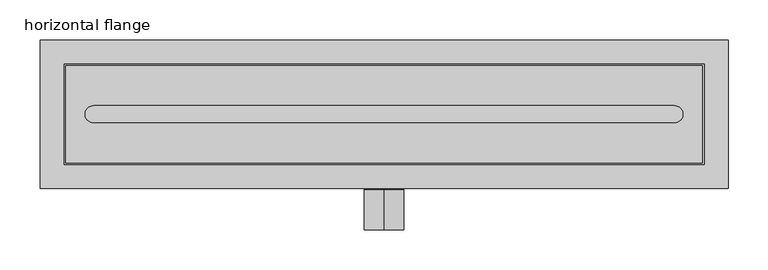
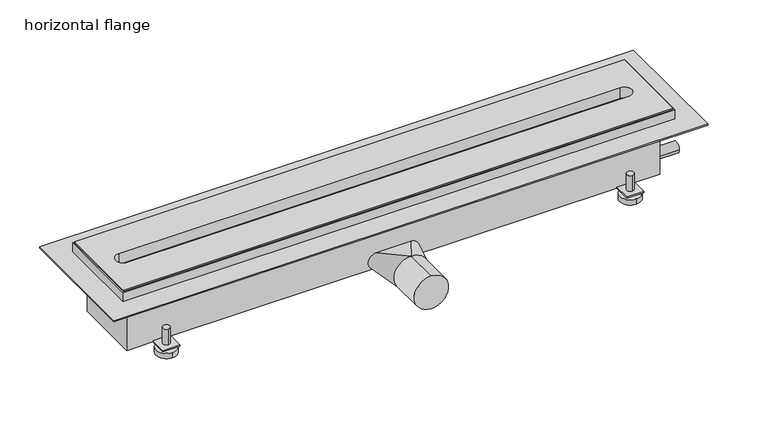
"""IFC4 building model written with IfcOpenShell, lengths in millimetres: sanitary terminal geometry, PF_ST_UN_ShowerDrain X_ACO : horizontal flange."""

from ifc_helpers import new_model, si_unit, point, frame, frame_2d, origin, origin_with_axes, place, context, project, spatial, polyline, circle_curve, trimmed, segment, composite_curve, outline, extrude, faceted_brep, source, transform, mapped, element, save
from ifc_brep_helpers import plane_surface, cylinder_surface, spline_surface, advanced_brep


def horizontal_flange_90231a54(model_context):
    return source(origin(), model_context, "Body", "SolidModel", [
        advanced_brep(
        [(-336.0, 67.0, -60.0), (-336.0, 57.0, -60.0), (-336.0, 77.0, -98.0), (-336.0, 47.0, -98.0), (-336.0, 67.0, -90.0), (-336.0, 57.0, -90.0), (-336.0, 77.0, -90.0), (-336.0, 47.0, -90.0)],
        [
            (0, 1, circle_curve(frame((-336.0, 62.0, -60.0), z_axis=(0.0, 0.0, 1.0), x_axis=(0.0, -1.0, 0.0)), 5.0)),
            (1, 0, circle_curve(frame((-336.0, 62.0, -60.0), z_axis=(0.0, 0.0, 1.0), x_axis=(0.0, -1.0, 0.0)), 5.0)),
            (2, 3, circle_curve(frame((-336.0, 62.0, -98.0), z_axis=(0.0, 0.0, -1.0), x_axis=(0.0, -1.0, 0.0)), 15.0)),
            (3, 2, circle_curve(frame((-336.0, 62.0, -98.0), z_axis=(0.0, 0.0, -1.0), x_axis=(0.0, -1.0, 0.0)), 15.0)),
            (0, 4),
            (4, 5, circle_curve(frame((-336.0, 62.0, -90.0), z_axis=(0.0, 0.0, 1.0), x_axis=(0.0, -1.0, 0.0)), 5.0)),
            (5, 1),
            (5, 4, circle_curve(frame((-336.0, 62.0, -90.0), z_axis=(0.0, 0.0, 1.0), x_axis=(0.0, -1.0, 0.0)), 5.0)),
            (6, 7, circle_curve(frame((-336.0, 62.0, -90.0), z_axis=(0.0, 0.0, 1.0), x_axis=(0.0, -1.0, 0.0)), 15.0)),
            (7, 6, circle_curve(frame((-336.0, 62.0, -90.0), z_axis=(0.0, 0.0, 1.0), x_axis=(0.0, -1.0, 0.0)), 15.0)),
            (6, 2),
            (3, 7),
        ],
        [
            plane_surface(frame((-336.0, 57.0, -60.0), z_axis=(0.0, 0.0, 1.0), x_axis=(1.0, 0.0, 0.0))),
            plane_surface(frame((-336.0, 57.0, -98.0), z_axis=(0.0, 0.0, -1.0), x_axis=(-1.0, 0.0, 0.0))),
            cylinder_surface(frame((-336.0, 62.0, -98.0), z_axis=(0.0, 0.0, 1.0), x_axis=(0.0, -1.0, 0.0)), 5.0),
            plane_surface(frame((-336.0, 47.0, -90.0), z_axis=(0.0, 0.0, 1.0), x_axis=(1.0, 0.0, 0.0))),
            cylinder_surface(frame((-336.0, 62.0, -98.0), z_axis=(0.0, 0.0, 1.0), x_axis=(0.0, -1.0, 0.0)), 15.0),
        ],
        [
            (0, [[1, 2]]),
            (1, [[3, 4]]),
            (2, [[-1, 5, 6, 7]]),
            (2, [[-2, -7, 8, -5]]),
            (3, [[9, 10], [-6, -8]]),
            (4, [[-9, 11, -4, 12]]),
            (4, [[-10, -12, -3, -11]]),
        ],
    ),
        advanced_brep(
        [(-336.0, -56.5, -60.0), (-336.0, -66.5, -60.0), (-336.0, -46.5, -98.0), (-336.0, -76.5, -98.0), (-336.0, -56.5, -90.0), (-336.0, -66.5, -90.0), (-336.0, -46.5, -90.0), (-336.0, -76.5, -90.0)],
        [
            (0, 1, circle_curve(frame((-336.0, -61.5, -60.0), z_axis=(0.0, 0.0, 1.0), x_axis=(0.0, -1.0, 0.0)), 5.0)),
            (1, 0, circle_curve(frame((-336.0, -61.5, -60.0), z_axis=(0.0, 0.0, 1.0), x_axis=(0.0, -1.0, 0.0)), 5.0)),
            (2, 3, circle_curve(frame((-336.0, -61.5, -98.0), z_axis=(0.0, 0.0, -1.0), x_axis=(0.0, -1.0, 0.0)), 15.0)),
            (3, 2, circle_curve(frame((-336.0, -61.5, -98.0), z_axis=(0.0, 0.0, -1.0), x_axis=(0.0, -1.0, 0.0)), 15.0)),
            (0, 4),
            (4, 5, circle_curve(frame((-336.0, -61.5, -90.0), z_axis=(0.0, 0.0, 1.0), x_axis=(0.0, -1.0, 0.0)), 5.0)),
            (5, 1),
            (5, 4, circle_curve(frame((-336.0, -61.5, -90.0), z_axis=(0.0, 0.0, 1.0), x_axis=(0.0, -1.0, 0.0)), 5.0)),
            (6, 7, circle_curve(frame((-336.0, -61.5, -90.0), z_axis=(0.0, 0.0, 1.0), x_axis=(0.0, -1.0, 0.0)), 15.0)),
            (7, 6, circle_curve(frame((-336.0, -61.5, -90.0), z_axis=(0.0, 0.0, 1.0), x_axis=(0.0, -1.0, 0.0)), 15.0)),
            (6, 2),
            (3, 7),
        ],
        [
            plane_surface(frame((-336.0, 57.0, -60.0), z_axis=(0.0, 0.0, 1.0), x_axis=(1.0, 0.0, 0.0))),
            plane_surface(frame((-336.0, 57.0, -98.0), z_axis=(0.0, 0.0, -1.0), x_axis=(-1.0, 0.0, 0.0))),
            cylinder_surface(frame((-336.0, -61.5, -98.0), z_axis=(0.0, 0.0, 1.0), x_axis=(0.0, -1.0, 0.0)), 5.0),
            plane_surface(frame((-336.0, 47.0, -90.0), z_axis=(0.0, 0.0, 1.0), x_axis=(1.0, 0.0, 0.0))),
            cylinder_surface(frame((-336.0, -61.5, -98.0), z_axis=(0.0, 0.0, 1.0), x_axis=(0.0, -1.0, 0.0)), 15.0),
        ],
        [
            (0, [[1, 2]]),
            (1, [[3, 4]]),
            (2, [[-1, 5, 6, 7]]),
            (2, [[-2, -7, 8, -5]]),
            (3, [[9, 10], [-6, -8]]),
            (4, [[-9, 11, -4, 12]]),
            (4, [[-10, -12, -3, -11]]),
        ],
    ),
        advanced_brep(
        [(336.0, 67.0, -60.0), (336.0, 57.0, -60.0), (336.0, 77.0, -98.0), (336.0, 47.0, -98.0), (336.0, 67.0, -90.0), (336.0, 57.0, -90.0), (336.0, 77.0, -90.0), (336.0, 47.0, -90.0)],
        [
            (0, 1, circle_curve(frame((336.0, 62.0, -60.0), z_axis=(0.0, 0.0, 1.0), x_axis=(0.0, -1.0, 0.0)), 5.0)),
            (1, 0, circle_curve(frame((336.0, 62.0, -60.0), z_axis=(0.0, 0.0, 1.0), x_axis=(0.0, -1.0, 0.0)), 5.0)),
            (2, 3, circle_curve(frame((336.0, 62.0, -98.0), z_axis=(0.0, 0.0, -1.0), x_axis=(0.0, -1.0, 0.0)), 15.0)),
            (3, 2, circle_curve(frame((336.0, 62.0, -98.0), z_axis=(0.0, 0.0, -1.0), x_axis=(0.0, -1.0, 0.0)), 15.0)),
            (0, 4),
            (4, 5, circle_curve(frame((336.0, 62.0, -90.0), z_axis=(0.0, 0.0, 1.0), x_axis=(0.0, -1.0, 0.0)), 5.0)),
            (5, 1),
            (5, 4, circle_curve(frame((336.0, 62.0, -90.0), z_axis=(0.0, 0.0, 1.0), x_axis=(0.0, -1.0, 0.0)), 5.0)),
            (6, 7, circle_curve(frame((336.0, 62.0, -90.0), z_axis=(0.0, 0.0, 1.0), x_axis=(0.0, -1.0, 0.0)), 15.0)),
            (7, 6, circle_curve(frame((336.0, 62.0, -90.0), z_axis=(0.0, 0.0, 1.0), x_axis=(0.0, -1.0, 0.0)), 15.0)),
            (6, 2),
            (3, 7),
        ],
        [
            plane_surface(frame((-336.0, 57.0, -60.0), z_axis=(0.0, 0.0, 1.0), x_axis=(1.0, 0.0, 0.0))),
            plane_surface(frame((-336.0, 57.0, -98.0), z_axis=(0.0, 0.0, -1.0), x_axis=(-1.0, 0.0, 0.0))),
            cylinder_surface(frame((336.0, 62.0, -98.0), z_axis=(0.0, 0.0, 1.0), x_axis=(0.0, -1.0, 0.0)), 5.0),
            plane_surface(frame((-336.0, 47.0, -90.0), z_axis=(0.0, 0.0, 1.0), x_axis=(1.0, 0.0, 0.0))),
            cylinder_surface(frame((336.0, 62.0, -98.0), z_axis=(0.0, 0.0, 1.0), x_axis=(0.0, -1.0, 0.0)), 15.0),
        ],
        [
            (0, [[1, 2]]),
            (1, [[3, 4]]),
            (2, [[-1, 5, 6, 7]]),
            (2, [[-2, -7, 8, -5]]),
            (3, [[9, 10], [-6, -8]]),
            (4, [[-9, 11, -4, 12]]),
            (4, [[-10, -12, -3, -11]]),
        ],
    ),
        advanced_brep(
        [(336.0, -56.5, -60.0), (336.0, -66.5, -60.0), (336.0, -46.5, -98.0), (336.0, -76.5, -98.0), (336.0, -56.5, -90.0), (336.0, -66.5, -90.0), (336.0, -46.5, -90.0), (336.0, -76.5, -90.0)],
        [
            (0, 1, circle_curve(frame((336.0, -61.5, -60.0), z_axis=(0.0, 0.0, 1.0), x_axis=(0.0, -1.0, 0.0)), 5.0)),
            (1, 0, circle_curve(frame((336.0, -61.5, -60.0), z_axis=(0.0, 0.0, 1.0), x_axis=(0.0, -1.0, 0.0)), 5.0)),
            (2, 3, circle_curve(frame((336.0, -61.5, -98.0), z_axis=(0.0, 0.0, -1.0), x_axis=(0.0, -1.0, 0.0)), 15.0)),
            (3, 2, circle_curve(frame((336.0, -61.5, -98.0), z_axis=(0.0, 0.0, -1.0), x_axis=(0.0, -1.0, 0.0)), 15.0)),
            (0, 4),
            (4, 5, circle_curve(frame((336.0, -61.5, -90.0), z_axis=(0.0, 0.0, 1.0), x_axis=(0.0, -1.0, 0.0)), 5.0)),
            (5, 1),
            (5, 4, circle_curve(frame((336.0, -61.5, -90.0), z_axis=(0.0, 0.0, 1.0), x_axis=(0.0, -1.0, 0.0)), 5.0)),
            (6, 7, circle_curve(frame((336.0, -61.5, -90.0), z_axis=(0.0, 0.0, 1.0), x_axis=(0.0, -1.0, 0.0)), 15.0)),
            (7, 6, circle_curve(frame((336.0, -61.5, -90.0), z_axis=(0.0, 0.0, 1.0), x_axis=(0.0, -1.0, 0.0)), 15.0)),
            (6, 2),
            (3, 7),
        ],
        [
            plane_surface(frame((-336.0, 57.0, -60.0), z_axis=(0.0, 0.0, 1.0), x_axis=(1.0, 0.0, 0.0))),
            plane_surface(frame((-336.0, 57.0, -98.0), z_axis=(0.0, 0.0, -1.0), x_axis=(-1.0, 0.0, 0.0))),
            cylinder_surface(frame((336.0, -61.5, -98.0), z_axis=(0.0, 0.0, 1.0), x_axis=(0.0, -1.0, 0.0)), 5.0),
            plane_surface(frame((-336.0, 47.0, -90.0), z_axis=(0.0, 0.0, 1.0), x_axis=(1.0, 0.0, 0.0))),
            cylinder_surface(frame((336.0, -61.5, -98.0), z_axis=(0.0, 0.0, 1.0), x_axis=(0.0, -1.0, 0.0)), 15.0),
        ],
        [
            (0, [[1, 2]]),
            (1, [[3, 4]]),
            (2, [[-1, 5, 6, 7]]),
            (2, [[-2, -7, 8, -5]]),
            (3, [[9, 10], [-6, -8]]),
            (4, [[-9, 11, -4, 12]]),
            (4, [[-10, -12, -3, -11]]),
        ],
    ),
        advanced_brep(
        [(386.0, 50.0, -86.0), (386.0, -49.0, -86.0), (348.5, -49.0, -86.0), (348.5, -74.0, -86.0), (323.5, -74.0, -86.0), (323.5, -49.0, -86.0), (-323.5, -49.0, -86.0), (-323.5, -74.0, -86.0), (-348.5, -74.0, -86.0), (-348.5, -49.0, -86.0), (-386.0, -49.0, -86.0), (-386.0, 50.0, -86.0), (-348.5, 50.0, -86.0), (-348.5, 74.0, -86.0), (-323.5, 74.0, -86.0), (-323.5, 50.0, -86.0), (323.5, 50.0, -86.0), (323.5, 74.0, -86.0), (348.5, 74.0, -86.0), (348.5, 50.0, -86.0), (386.0, 50.0, -8.0), (-386.0, 50.0, -8.0), (-386.0, -49.0, -8.0), (386.0, -49.0, -8.0), (348.5, 50.0, -84.0), (323.5, 50.0, -84.0), (-323.5, 50.0, -84.0), (-348.5, 50.0, -84.0), (-348.5, -49.0, -84.0), (-323.5, -49.0, -84.0), (323.5, -49.0, -84.0), (348.5, -49.0, -84.0), (386.0, -37.85, -68.0), (386.0, -22.15, -68.0), (386.0, 24.15, -32.0), (386.0, 39.85, -32.0), (421.0, -37.85, -68.0), (421.0, -22.15, -68.0), (421.0, 24.15, -32.0), (421.0, 39.85, -32.0), (-323.5, 74.0, -84.0), (-348.5, 74.0, -84.0), (348.5, 74.0, -84.0), (323.5, 74.0, -84.0), (348.5, -74.0, -84.0), (323.5, -74.0, -84.0), (-348.5, -74.0, -84.0), (-323.5, -74.0, -84.0)],
        [
            (0, 1),
            (1, 2),
            (2, 3),
            (3, 4),
            (4, 5),
            (5, 6),
            (6, 7),
            (7, 8),
            (8, 9),
            (9, 10),
            (10, 11),
            (11, 12),
            (12, 13),
            (13, 14),
            (14, 15),
            (15, 16),
            (16, 17),
            (17, 18),
            (18, 19),
            (19, 0),
            (20, 21),
            (21, 22),
            (22, 23),
            (23, 20),
            (20, 0),
            (19, 24),
            (24, 25),
            (25, 16),
            (15, 26),
            (26, 27),
            (27, 12),
            (11, 21),
            (10, 22),
            (9, 28),
            (28, 29),
            (29, 6),
            (5, 30),
            (30, 31),
            (31, 2),
            (1, 23),
            (32, 33, circle_curve(frame((386.0, -30.0, -68.0), z_axis=(-1.0, 0.0, 0.0), x_axis=(0.0, 1.0, 0.0)), 7.85)),
            (33, 32, circle_curve(frame((386.0, -30.0, -68.0), z_axis=(-1.0, 0.0, 0.0), x_axis=(0.0, 1.0, 0.0)), 7.85)),
            (34, 35, circle_curve(frame((386.0, 32.0, -32.0), z_axis=(-1.0, 0.0, 0.0), x_axis=(0.0, 1.0, 0.0)), 7.85)),
            (35, 34, circle_curve(frame((386.0, 32.0, -32.0), z_axis=(-1.0, 0.0, 0.0), x_axis=(0.0, 1.0, 0.0)), 7.85)),
            (36, 37, circle_curve(frame((421.0, -30.0, -68.0), z_axis=(1.0, 0.0, 0.0), x_axis=(0.0, 1.0, 0.0)), 7.85)),
            (37, 36, circle_curve(frame((421.0, -30.0, -68.0), z_axis=(1.0, 0.0, 0.0), x_axis=(0.0, 1.0, 0.0)), 7.85)),
            (37, 33),
            (32, 36),
            (38, 39, circle_curve(frame((421.0, 32.0, -32.0), z_axis=(1.0, 0.0, 0.0), x_axis=(0.0, 1.0, 0.0)), 7.85)),
            (39, 38, circle_curve(frame((421.0, 32.0, -32.0), z_axis=(1.0, 0.0, 0.0), x_axis=(0.0, 1.0, 0.0)), 7.85)),
            (39, 35),
            (34, 38),
            (40, 41),
            (41, 27),
            (26, 40),
            (42, 43),
            (43, 25),
            (24, 42),
            (44, 31),
            (30, 45),
            (45, 44),
            (46, 47),
            (47, 29),
            (28, 46),
            (40, 14),
            (13, 41),
            (42, 18),
            (17, 43),
            (44, 3),
            (4, 45),
            (46, 8),
            (7, 47),
        ],
        [
            plane_surface(frame((-386.0, 50.0, -86.0), z_axis=(0.0, 0.0, -1.0), x_axis=(1.0, 0.0, 0.0))),
            plane_surface(frame((-386.0, 50.0, -8.0), z_axis=(0.0, 0.0, 1.0), x_axis=(-1.0, 0.0, 0.0))),
            plane_surface(frame((386.0, 50.0, -8.0), z_axis=(0.0, 1.0, 0.0), x_axis=(0.0, 0.0, -1.0))),
            plane_surface(frame((-386.0, 50.0, -8.0), z_axis=(-1.0, 0.0, 0.0), x_axis=(0.0, 0.0, -1.0))),
            plane_surface(frame((-386.0, -49.0, -8.0), z_axis=(0.0, -1.0, 0.0), x_axis=(0.0, 0.0, -1.0))),
            plane_surface(frame((386.0, -49.0, -8.0), z_axis=(1.0, 0.0, 0.0), x_axis=(0.0, 0.0, -1.0))),
            plane_surface(frame((421.0, -30.0, -68.0), z_axis=(1.0, 0.0, 0.0), x_axis=(0.0, 0.0, 1.0))),
            cylinder_surface(frame((0.0, -30.0, -68.0), z_axis=(-1.0, 0.0, 0.0), x_axis=(0.0, 1.0, 0.0)), 7.85),
            plane_surface(frame((421.0, 32.0, -32.0), z_axis=(1.0, 0.0, 0.0), x_axis=(0.0, 0.0, 1.0))),
            cylinder_surface(frame((0.0, 32.0, -32.0), z_axis=(-1.0, 0.0, 0.0), x_axis=(0.0, 1.0, 0.0)), 7.85),
            plane_surface(frame((-348.5, 74.0, -84.0), z_axis=(0.0, 0.0, 1.0), x_axis=(-1.0, 0.0, 0.0))),
            plane_surface(frame((-323.5, 74.0, -84.0), z_axis=(0.0, 1.0, 0.0), x_axis=(0.0, 0.0, -1.0))),
            plane_surface(frame((-348.5, 74.0, -84.0), z_axis=(-1.0, 0.0, 0.0), x_axis=(0.0, 0.0, -1.0))),
            plane_surface(frame((-323.5, 50.0, -84.0), z_axis=(1.0, 0.0, 0.0), x_axis=(0.0, 0.0, -1.0))),
            plane_surface(frame((348.5, 74.0, -84.0), z_axis=(0.0, 1.0, 0.0), x_axis=(0.0, 0.0, -1.0))),
            plane_surface(frame((323.5, 74.0, -84.0), z_axis=(-1.0, 0.0, 0.0), x_axis=(0.0, 0.0, -1.0))),
            plane_surface(frame((348.5, 50.0, -84.0), z_axis=(1.0, 0.0, 0.0), x_axis=(0.0, 0.0, -1.0))),
            plane_surface(frame((348.5, -74.0, -84.0), z_axis=(1.0, 0.0, 0.0), x_axis=(0.0, 0.0, -1.0))),
            plane_surface(frame((323.5, -49.0, -84.0), z_axis=(-1.0, 0.0, 0.0), x_axis=(0.0, 0.0, -1.0))),
            plane_surface(frame((323.5, -74.0, -84.0), z_axis=(0.0, -1.0, 0.0), x_axis=(0.0, 0.0, -1.0))),
            plane_surface(frame((-348.5, -74.0, -84.0), z_axis=(0.0, -1.0, 0.0), x_axis=(0.0, 0.0, -1.0))),
            plane_surface(frame((-323.5, -74.0, -84.0), z_axis=(1.0, 0.0, 0.0), x_axis=(0.0, 0.0, -1.0))),
            plane_surface(frame((-348.5, -49.0, -84.0), z_axis=(-1.0, 0.0, 0.0), x_axis=(0.0, 0.0, -1.0))),
        ],
        [
            (0, [[1, 2, 3, 4, 5, 6, 7, 8, 9, 10, 11, 12, 13, 14, 15, 16, 17, 18, 19, 20]]),
            (1, [[21, 22, 23, 24]]),
            (2, [[-21, 25, -20, 26, 27, 28, -16, 29, 30, 31, -12, 32]]),
            (3, [[-11, 33, -22, -32]]),
            (4, [[-23, -33, -10, 34, 35, 36, -6, 37, 38, 39, -2, 40]]),
            (5, [[-1, -25, -24, -40], [41, 42], [43, 44]]),
            (6, [[45, 46]]),
            (7, [[-46, 47, -41, 48]]),
            (7, [[-45, -48, -42, -47]]),
            (8, [[49, 50]]),
            (9, [[-50, 51, -43, 52]]),
            (9, [[-49, -52, -44, -51]]),
            (10, [[53, 54, -30, 55]]),
            (10, [[56, 57, -27, 58]]),
            (10, [[59, -38, 60, 61]]),
            (10, [[62, 63, -35, 64]]),
            (11, [[-53, 65, -14, 66]]),
            (12, [[-54, -66, -13, -31]]),
            (13, [[-55, -29, -15, -65]]),
            (14, [[-56, 67, -18, 68]]),
            (15, [[-57, -68, -17, -28]]),
            (16, [[-58, -26, -19, -67]]),
            (17, [[-59, 69, -3, -39]]),
            (18, [[-60, -37, -5, 70]]),
            (19, [[-61, -70, -4, -69]]),
            (20, [[-62, 71, -8, 72]]),
            (21, [[-63, -72, -7, -36]]),
            (22, [[-64, -34, -9, -71]]),
        ],
    ),
        extrude(outline(polyline([(398.0, 61.0), (398.0, -61.0), (-398.0, -61.0), (-398.0, 61.0), (398.0, 61.0)]), holes=[composite_curve([segment(polyline([(363.0860312, 10.6770786), (-363.0900069, 10.6770786)]), True, "CONTINUOUS"), segment(trimmed(circle_curve(frame_2d((-363.0900069, 0.0)), 10.6770786), [point((-363.0900069, 10.6770786))], [point((-363.0900069, -10.6770786))], True, "CARTESIAN"), True, "CONTINUOUS"), segment(polyline([(-363.0900069, -10.6770786), (363.0860312, -10.6770786)]), True, "CONTINUOUS"), segment(trimmed(circle_curve(frame_2d((363.0860312, 0.0)), 10.6770786), [point((363.0860312, -10.6770786))], [point((363.0860312, 10.6770786))], True, "CARTESIAN"), True, "CONTINUOUS")], self_intersect=False)]), origin_with_axes(), (0.0, 0.0, 1.0), 18.0),
        advanced_brep(
        [(0.0, -144.5, -99.0), (0.0, -144.5, -49.0), (0.0, -94.5, -99.0), (13.0, -94.5, -95.3541565), (13.0005627, -94.5, -52.6461861), (0.0, -94.5, -49.0), (-13.0, -94.5, -52.6458435), (-13.0, -94.5, -95.3541565), (25.0, -50.0, -86.0), (-25.0, -50.0, -86.0), (-25.0, -50.0, -62.0), (25.0, -50.0, -62.0)],
        [
            (0, 1, circle_curve(frame((0.0, -144.5, -74.0), z_axis=(0.0, -1.0, 0.0), x_axis=(0.0, 0.0, 1.0)), 25.0)),
            (1, 0, circle_curve(frame((0.0, -144.5, -74.0), z_axis=(0.0, -1.0, 0.0), x_axis=(0.0, 0.0, 1.0)), 25.0)),
            (0, 2),
            (2, 3, circle_curve(frame((0.0, -94.5, -74.0), z_axis=(0.0, -1.0, 0.0), x_axis=(0.0, 0.0, 1.0)), 25.0)),
            (3, 4, circle_curve(frame((0.0, -94.5, -74.0), z_axis=(0.0, -1.0, 0.0), x_axis=(0.0, 0.0, 1.0)), 25.0)),
            (4, 5, circle_curve(frame((0.0, -94.5, -74.0), z_axis=(0.0, -1.0, 0.0), x_axis=(0.0, 0.0, 1.0)), 25.0)),
            (5, 1),
            (5, 6, circle_curve(frame((0.0, -94.5, -74.0), z_axis=(0.0, -1.0, 0.0), x_axis=(0.0, 0.0, 1.0)), 25.0)),
            (6, 7, circle_curve(frame((0.0, -94.5, -74.0), z_axis=(0.0, -1.0, 0.0), x_axis=(0.0, 0.0, 1.0)), 25.0)),
            (7, 2, circle_curve(frame((0.0, -94.5, -74.0), z_axis=(0.0, -1.0, 0.0), x_axis=(0.0, 0.0, 1.0)), 25.0)),
            (8, 9),
            (9, 10, circle_curve(frame((-25.0, -50.0, -74.0), z_axis=(0.0, 1.0, 0.0), x_axis=(0.0, 0.0, 1.0)), 12.0)),
            (10, 11),
            (11, 8, circle_curve(frame((25.0, -50.0, -74.0), z_axis=(0.0, 1.0, 0.0), x_axis=(0.0, 0.0, 1.0)), 12.0)),
            (8, 2),
            (2, 9),
            (5, 10),
            (5, 11),
        ],
        [
            plane_surface(frame((0.0, -144.5, -74.0), z_axis=(0.0, -1.0, 0.0), x_axis=(1.0, 0.0, 0.0))),
            cylinder_surface(frame((0.0, -144.5, -74.0), z_axis=(0.0, -1.0, 0.0), x_axis=(0.0, 0.0, 1.0)), 25.0),
            plane_surface(frame((0.0, -50.0, -74.0), z_axis=(0.0, 1.0, 0.0), x_axis=(-1.0, 0.0, 0.0))),
            plane_surface(frame((0.0, -94.5, -99.0), z_axis=(0.0, 0.2804141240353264, -0.9598791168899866), x_axis=(-1.0, 0.0, 0.0))),
            spline_surface(2, 1, [[(0.0, -94.5, -99.0), (-25.0, -50.0, -86.0)], [(-25.0, -94.5, -99.0), (-37.0, -50.0, -86.0)], [(-25.0, -94.5, -74.0), (-37.0, -50.0, -74.0)], [(-25.0, -94.5, -49.0), (-37.0, -50.0, -62.0)], [(0.0, -94.5, -49.0), (-25.0, -50.0, -62.0)]], [3, 2, 3], [2, 2], [0.0, 1.0, 2.0], [0.0, 1.0], weights=[[1.0, 1.0], [0.7071067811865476, 0.7071067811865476], [1.0, 1.0], [0.7071067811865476, 0.7071067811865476], [1.0, 1.0]]),
            plane_surface(frame((0.0, -94.5, -49.0), z_axis=(0.0, 0.2804141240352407, 0.9598791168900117), x_axis=(1.0, 0.0, 0.0))),
            spline_surface(2, 1, [[(0.0, -94.5, -49.0), (25.0, -50.0, -62.0)], [(25.0, -94.5, -49.0), (37.0, -50.0, -62.0)], [(25.0, -94.5, -74.0), (37.0, -50.0, -74.0)], [(25.0, -94.5, -99.0), (37.0, -50.0, -86.0)], [(0.0, -94.5, -99.0), (25.0, -50.0, -86.0)]], [3, 2, 3], [2, 2], [0.0, 1.0, 2.0], [0.0, 1.0], weights=[[1.0, 1.0], [0.7071067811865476, 0.7071067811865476], [1.0, 1.0], [0.7071067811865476, 0.7071067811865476], [1.0, 1.0]]),
        ],
        [
            (0, [[1, 2]]),
            (1, [[-1, 3, 4, 5, 6, 7]]),
            (1, [[-2, -7, 8, 9, 10, -3]]),
            (2, [[11, 12, 13, 14]]),
            (3, [[-11, 15, 16]]),
            (4, [[-12, -16, -10, -9, -8, 17]]),
            (5, [[-13, -17, 18]]),
            (6, [[-14, -18, -6, -5, -4, -15]]),
        ],
    ),
        extrude(outline(polyline([(430.0, 93.0), (430.0, -93.0), (-430.0, -93.0), (-430.0, 93.0), (430.0, 93.0)])), origin_with_axes(), (0.0, 0.0, 1.0), 2.0),
        faceted_brep([(400.0, 63.0, 16.0), (-400.0, 63.0, 16.0), (-400.0, -63.0, 16.0), (400.0, -63.0, 16.0), (-398.0, 61.0, 16.0), (398.0, 61.0, 16.0), (398.0, -61.0, 16.0), (-398.0, -61.0, 16.0), (400.0, 63.0, -8.0), (400.0, -63.0, -8.0), (-400.0, -63.0, -8.0), (-400.0, 63.0, -8.0), (398.0, 61.0, -6.0), (-398.0, 61.0, -6.0), (-398.0, -61.0, -6.0), (398.0, -61.0, -6.0)], [[[0, 1, 2, 3], [4, 5, 6, 7]], [[8, 9, 10, 11]], [[1, 0, 8, 11]], [[2, 1, 11, 10]], [[3, 2, 10, 9]], [[0, 3, 9, 8]], [[12, 13, 14, 15]], [[13, 12, 5, 4]], [[14, 13, 4, 7]], [[15, 14, 7, 6]], [[12, 15, 6, 5]]]),
    ])


if __name__ == "__main__":
    model = new_model("IFC4")
    model_context = context("Model", 3, world=origin())
    ifc_project = project(units=[si_unit("LENGTHUNIT", "METRE", prefix="MILLI")], contexts=[model_context])
    site = spatial("IfcSite", under=ifc_project)
    building = spatial("IfcBuilding", under=site)
    placement = place(None, origin())
    horizontal_flange_shape = horizontal_flange_90231a54(model_context)
    element("IfcSanitaryTerminal", 1, ObjectType="PF_ST_UN_ShowerDrain X_ACO : horizontal flange", at=placement, inside=building, context=model_context, shape_type="MappedRepresentation", body=[
        mapped(horizontal_flange_shape, transform((0.0, 0.0, 0.0), x_axis=(1.0, 0.0, 0.0), y_axis=(0.0, 1.0, 0.0), z_axis=(0.0, 0.0, 1.0))),
    ])
    save(model, "model.ifc")
